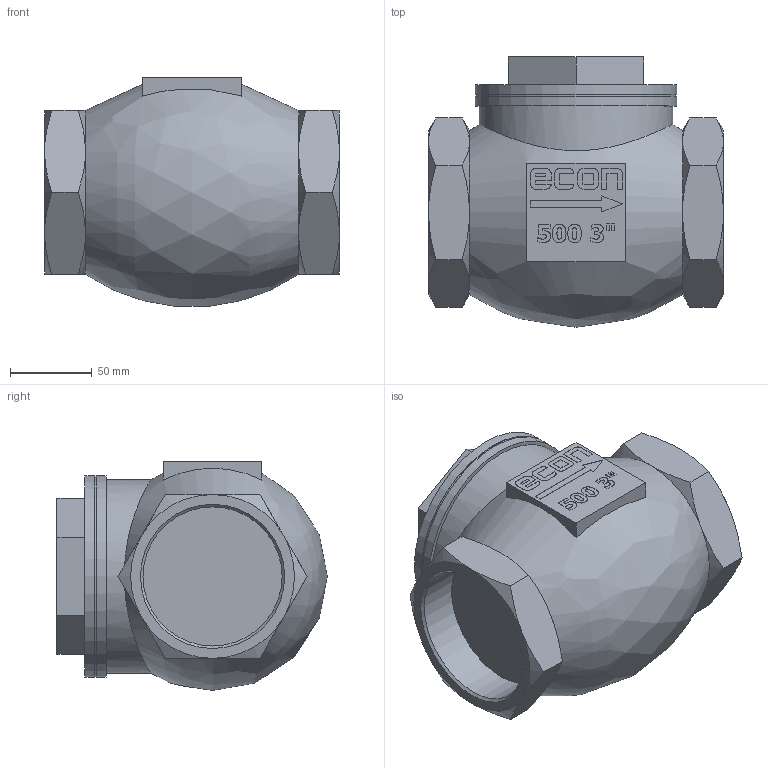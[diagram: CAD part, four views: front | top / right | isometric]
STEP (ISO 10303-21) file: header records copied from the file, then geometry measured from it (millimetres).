
FILE_DESCRIPTION(/* description */ ('Eriks item no: 12035720'),/* implementation_level */ '2;1');
FILE_NAME(/* name */ 'L:\DATA\ENG\Inventor\Econ 3D modellen\terugslagklep\500\500-080-PN16-PTFE.stp',/* time_stamp */ '2023-12-06T15:55:18+01:00',/* author */ ('roger.thijssen'),/* organization */ (''),/* preprocessor_version */ 'ST-DEVELOPER v18',/* originating_system */ 'Autodesk Inventor 2020',/* authorisation */ '');
FILE_SCHEMA (('CONFIG_CONTROL_DESIGN'));
Length unit declared in the file: millimetre
Products named in the file (1): Check valve, 500-080-PN16-PTFE
Bounding box: 180 x 165.1 x 139.68 mm (x, y, z)
Volume: 2145284 mm3; surface area: 121039.9 mm2
Topology: 1 solids, 1 shells, 272 faces, 708 edges, 467 vertices
Faces by surface type: plane 156, bspline 58, cylinder 32, cone 26
Full cylindrical faces by diameter (mm): 84.926 x2, 118 x1, 122.6 x1, 123 x2
Entity records: 8864 total; most frequent: CARTESIAN_POINT 2553, ORIENTED_EDGE 1416, DIRECTION 1078, EDGE_CURVE 708, VERTEX_POINT 467, LINE 438, VECTOR 438, AXIS2_PLACEMENT_3D 320
